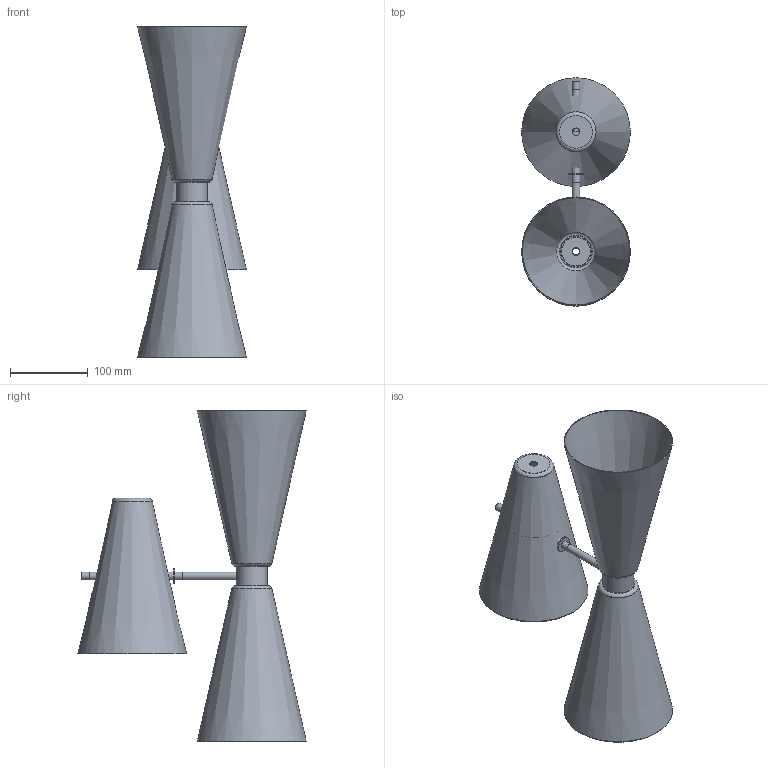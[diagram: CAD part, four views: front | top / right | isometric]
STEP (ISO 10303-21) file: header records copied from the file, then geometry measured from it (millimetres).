
FILE_DESCRIPTION( ( 'STEP AP203' ), '1' );
FILE_NAME( '//srvbf/BF Disegni/NEOS (ex MEG)/APPLIQUE DOPPIA LUCE/NEOS-A2 Applique A 3D.stp', '2020-10-15T15:17:53', ( ' ' ), ( ' ' ), 'XStep 1.0', ' ', ' ' );
FILE_SCHEMA( ( 'CONFIG_CONTROL_DESIGN) ( )' ) );
Length unit declared in the file: metre
Products named in the file (5): Assem1; 1; 2; 3; 4
Bounding box: 140 x 294 x 425 mm (x, y, z)
Volume: 244715.5 mm3; surface area: 448918.4 mm2
Topology: 9 solids, 9 shells, 94 faces, 209 edges, 140 vertices
Faces by surface type: plane 45, cylinder 33, torus 10, cone 6
Full cylindrical faces by diameter (mm): 5 x4, 7.1 x2, 8.917 x4, 10 x9, 10.1 x2, 10.5 x2, 20 x2, 37 x2, 40 x2, 82 x2, 85 x2
Entity records: 1684 total; most frequent: CARTESIAN_POINT 565, DIRECTION 198, ORIENTED_EDGE 128, EDGE_LOOP 92, AXIS2_PLACEMENT_3D 91, EDGE_CURVE 64, FACE_OUTER_BOUND 63, VERTEX_POINT 56
